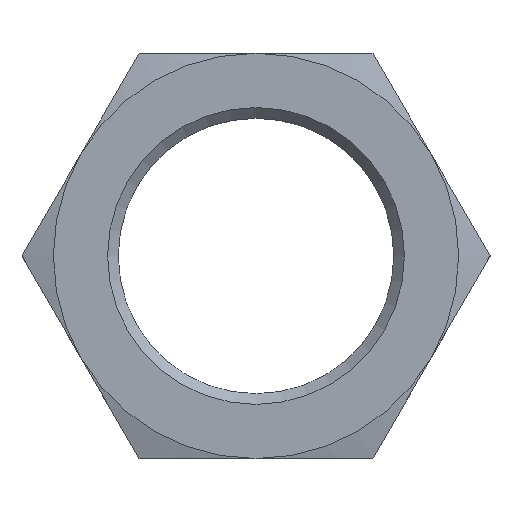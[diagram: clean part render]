
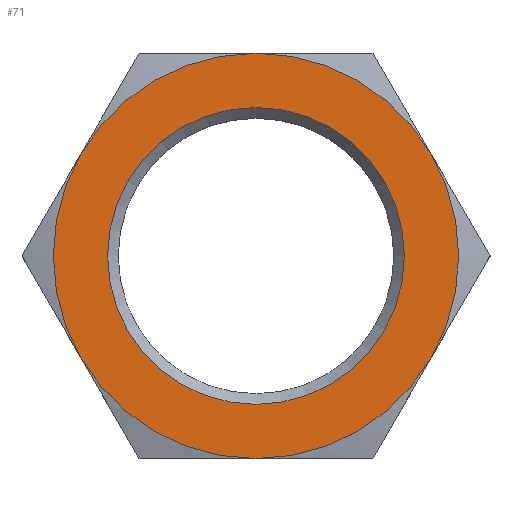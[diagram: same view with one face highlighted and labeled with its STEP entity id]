
A CAD part, top view. The second image highlights one B-rep face of the part: STEP entity #71.
In plain terms, the highlighted planar face has unit normal (0, 0, 1).
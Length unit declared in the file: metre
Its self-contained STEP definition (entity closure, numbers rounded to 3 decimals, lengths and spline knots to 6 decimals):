
#71 = ADVANCED_FACE( '', ( #150, #151 ), #152, .T. );
#150 = FACE_BOUND( '', #231, .T. );
#151 = FACE_OUTER_BOUND( '', #232, .T. );
#152 = PLANE( '', #233 );
#231 = EDGE_LOOP( '', ( #363 ) );
#232 = EDGE_LOOP( '', ( #364, #365, #366, #367, #368, #369 ) );
#233 = AXIS2_PLACEMENT_3D( '', #370, #371, #372 );
#363 = ORIENTED_EDGE( '', *, *, #485, .T. );
#364 = ORIENTED_EDGE( '', *, *, #480, .T. );
#365 = ORIENTED_EDGE( '', *, *, #500, .T. );
#366 = ORIENTED_EDGE( '', *, *, #501, .T. );
#367 = ORIENTED_EDGE( '', *, *, #472, .T. );
#368 = ORIENTED_EDGE( '', *, *, #502, .T. );
#369 = ORIENTED_EDGE( '', *, *, #483, .T. );
#370 = CARTESIAN_POINT( '', ( -0.016454, 0.0095, 0.004 ) );
#371 = DIRECTION( '', ( 0., 0., 1. ) );
#372 = DIRECTION( '', ( 1., 0., 0. ) );
#472 = EDGE_CURVE( '', #557, #528, #559, .T. );
#480 = EDGE_CURVE( '', #567, #548, #571, .T. );
#483 = EDGE_CURVE( '', #573, #567, #575, .T. );
#485 = EDGE_CURVE( '', #577, #577, #578, .F. );
#500 = EDGE_CURVE( '', #548, #586, #597, .T. );
#501 = EDGE_CURVE( '', #586, #557, #598, .T. );
#502 = EDGE_CURVE( '', #528, #573, #599, .T. );
#528 = VERTEX_POINT( '', #637 );
#548 = VERTEX_POINT( '', #689 );
#557 = VERTEX_POINT( '', #708 );
#559 = CIRCLE( '', #715, 0.0095 );
#567 = VERTEX_POINT( '', #734 );
#571 = CIRCLE( '', #748, 0.0095 );
#573 = VERTEX_POINT( '', #750 );
#575 = CIRCLE( '', #757, 0.0095 );
#577 = VERTEX_POINT( '', #759 );
#578 = CIRCLE( '', #760, 0.006959 );
#586 = VERTEX_POINT( '', #774 );
#597 = CIRCLE( '', #795, 0.0095 );
#598 = CIRCLE( '', #796, 0.0095 );
#599 = CIRCLE( '', #797, 0.0095 );
#637 = CARTESIAN_POINT( '', ( -0.008227, -0.00475, 0.004 ) );
#689 = CARTESIAN_POINT( '', ( 0.008227, 0.00475, 0.004 ) );
#708 = CARTESIAN_POINT( '', ( -0.008227, 0.00475, 0.004 ) );
#715 = AXIS2_PLACEMENT_3D( '', #851, #852, #853 );
#734 = CARTESIAN_POINT( '', ( 0.008227, -0.00475, 0.004 ) );
#748 = AXIS2_PLACEMENT_3D( '', #855, #856, #857 );
#750 = CARTESIAN_POINT( '', ( 0., -0.0095, 0.004 ) );
#757 = AXIS2_PLACEMENT_3D( '', #858, #859, #860 );
#759 = CARTESIAN_POINT( '', ( 0.006959, 0., 0.004 ) );
#760 = AXIS2_PLACEMENT_3D( '', #861, #862, #863 );
#774 = CARTESIAN_POINT( '', ( 0., 0.0095, 0.004 ) );
#795 = AXIS2_PLACEMENT_3D( '', #883, #884, #885 );
#796 = AXIS2_PLACEMENT_3D( '', #886, #887, #888 );
#797 = AXIS2_PLACEMENT_3D( '', #889, #890, #891 );
#851 = CARTESIAN_POINT( '', ( 0., 0., 0.004 ) );
#852 = DIRECTION( '', ( 0., 0., 1. ) );
#853 = DIRECTION( '', ( 1., 0., 0. ) );
#855 = CARTESIAN_POINT( '', ( 0., 0., 0.004 ) );
#856 = DIRECTION( '', ( 0., 0., 1. ) );
#857 = DIRECTION( '', ( 1., 0., 0. ) );
#858 = CARTESIAN_POINT( '', ( 0., 0., 0.004 ) );
#859 = DIRECTION( '', ( 0., 0., 1. ) );
#860 = DIRECTION( '', ( 1., 0., 0. ) );
#861 = CARTESIAN_POINT( '', ( 0., 0., 0.004 ) );
#862 = DIRECTION( '', ( 0., 0., 1. ) );
#863 = DIRECTION( '', ( 1., 0., 0. ) );
#883 = CARTESIAN_POINT( '', ( 0., 0., 0.004 ) );
#884 = DIRECTION( '', ( 0., 0., 1. ) );
#885 = DIRECTION( '', ( 1., 0., 0. ) );
#886 = CARTESIAN_POINT( '', ( 0., 0., 0.004 ) );
#887 = DIRECTION( '', ( 0., 0., 1. ) );
#888 = DIRECTION( '', ( 1., 0., 0. ) );
#889 = CARTESIAN_POINT( '', ( 0., 0., 0.004 ) );
#890 = DIRECTION( '', ( 0., 0., 1. ) );
#891 = DIRECTION( '', ( 1., 0., 0. ) );
